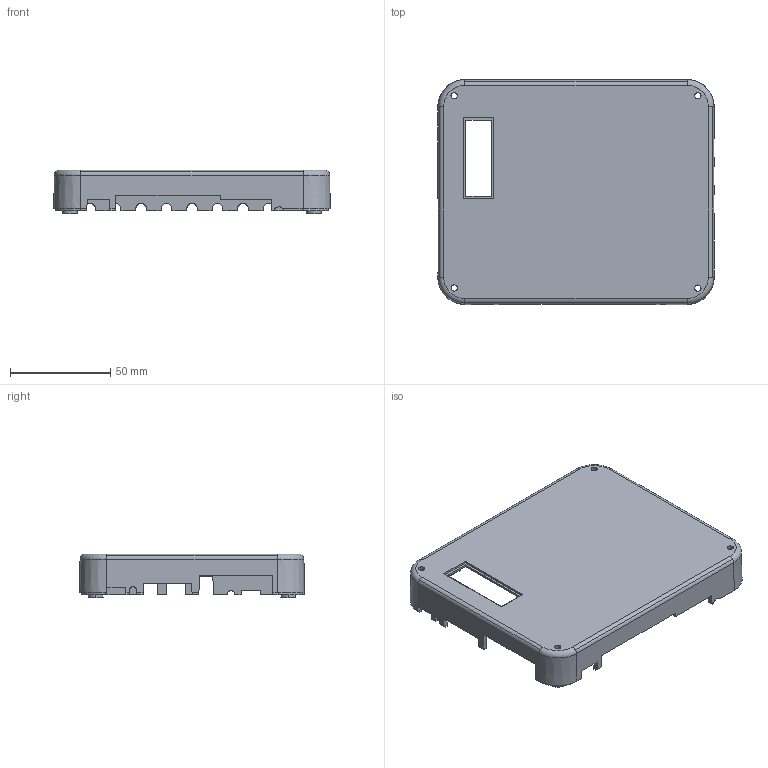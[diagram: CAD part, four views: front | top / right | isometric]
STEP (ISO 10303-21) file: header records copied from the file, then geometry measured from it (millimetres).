
FILE_DESCRIPTION(('STEP AP214'),'1');
FILE_NAME('PL_stm32 v0.7b v68 top.stp','2020-01-22T14:23:37',(' '),(' '),'Spatial InterOp 3D',' ',' ');
FILE_SCHEMA(('AUTOMOTIVE_DESIGN { 1 0 10303 214 1 1 1 1 }'));
Length unit declared in the file: metre
Products named in the file (5): proto3; top_case; stm32 v0.7b v68 top; PL_stm32 v0.7b v68 top
Assembly tree (4 placements, depth 5):
  PL_stm32 v0.7b v68 top
    PL_stm32 v0.7b v68 top
      stm32 v0.7b v68 top
        proto3
          top_case
Bounding box: 137.86 x 112.22 x 21.9 mm (x, y, z)
Volume: 48695.9 mm3; surface area: 46288.5 mm2
Topology: 1 solids, 1 shells, 224 faces, 643 edges, 426 vertices
Faces by surface type: plane 143, cone 40, cylinder 29, bspline 8, torus 4
Entity records: 11202 total; most frequent: CARTESIAN_POINT 3318, ORIENTED_EDGE 1286, DIRECTION 1222, EDGE_CURVE 643, LINE 440, VECTOR 440, VERTEX_POINT 426, AXIS2_PLACEMENT_3D 391
